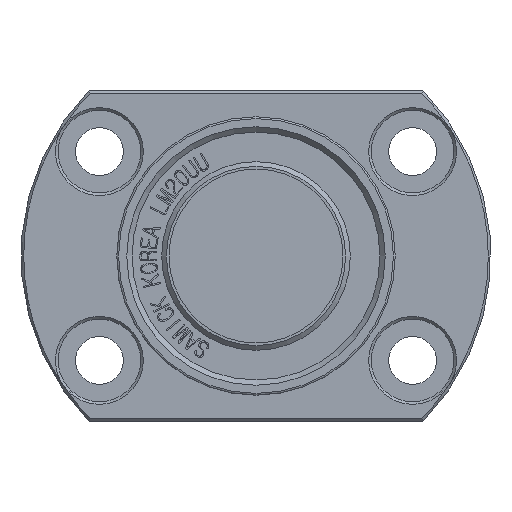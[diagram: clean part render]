
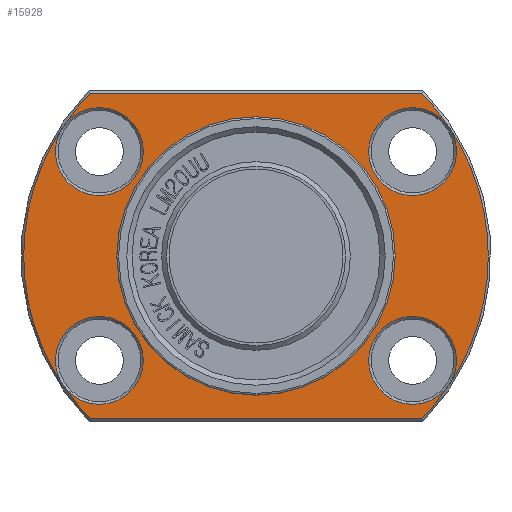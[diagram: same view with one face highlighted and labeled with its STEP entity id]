
A CAD part, front view. The second image highlights one B-rep face of the part: STEP entity #15928.
In plain terms, the highlighted planar face has unit normal (0, -1, 0).
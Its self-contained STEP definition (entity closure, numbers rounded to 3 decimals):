
#2613=FACE_BOUND('',#3773,.T.);
#2614=FACE_BOUND('',#3774,.T.);
#2615=FACE_BOUND('',#3775,.T.);
#2616=FACE_BOUND('',#3776,.T.);
#2617=FACE_BOUND('',#3777,.T.);
#2677=PLANE('',#16811);
#2912=FACE_OUTER_BOUND('',#3772,.T.);
#3772=EDGE_LOOP('',(#11088,#11089,#11090,#11091));
#3773=EDGE_LOOP('',(#11092));
#3774=EDGE_LOOP('',(#11093));
#3775=EDGE_LOOP('',(#11094,#11095));
#3776=EDGE_LOOP('',(#11096));
#3777=EDGE_LOOP('',(#11097));
#4696=LINE('',#19011,#5836);
#4697=LINE('',#19015,#5837);
#5836=VECTOR('',#17170,10.);
#5837=VECTOR('',#17173,10.);
#6975=CIRCLE('',#16808,5.05);
#6978=CIRCLE('',#16812,26.7);
#6979=CIRCLE('',#16813,26.7);
#6980=CIRCLE('',#16814,5.05);
#6981=CIRCLE('',#16815,5.05);
#6982=CIRCLE('',#16816,16.);
#6983=CIRCLE('',#16817,16.);
#6984=CIRCLE('',#16818,5.05);
#7057=VERTEX_POINT('',#19001);
#7060=VERTEX_POINT('',#19009);
#7061=VERTEX_POINT('',#19010);
#7062=VERTEX_POINT('',#19012);
#7063=VERTEX_POINT('',#19014);
#7064=VERTEX_POINT('',#19017);
#7065=VERTEX_POINT('',#19019);
#7066=VERTEX_POINT('',#19021);
#7067=VERTEX_POINT('',#19022);
#7068=VERTEX_POINT('',#19025);
#8669=EDGE_CURVE('',#7057,#7057,#6975,.T.);
#8673=EDGE_CURVE('',#7060,#7061,#4696,.T.);
#8674=EDGE_CURVE('',#7060,#7062,#6978,.T.);
#8675=EDGE_CURVE('',#7063,#7062,#4697,.T.);
#8676=EDGE_CURVE('',#7063,#7061,#6979,.T.);
#8677=EDGE_CURVE('',#7064,#7064,#6980,.T.);
#8678=EDGE_CURVE('',#7065,#7065,#6981,.T.);
#8679=EDGE_CURVE('',#7066,#7067,#6982,.T.);
#8680=EDGE_CURVE('',#7067,#7066,#6983,.T.);
#8681=EDGE_CURVE('',#7068,#7068,#6984,.T.);
#11088=ORIENTED_EDGE('',*,*,#8673,.F.);
#11089=ORIENTED_EDGE('',*,*,#8674,.T.);
#11090=ORIENTED_EDGE('',*,*,#8675,.F.);
#11091=ORIENTED_EDGE('',*,*,#8676,.T.);
#11092=ORIENTED_EDGE('',*,*,#8677,.F.);
#11093=ORIENTED_EDGE('',*,*,#8678,.F.);
#11094=ORIENTED_EDGE('',*,*,#8679,.F.);
#11095=ORIENTED_EDGE('',*,*,#8680,.F.);
#11096=ORIENTED_EDGE('',*,*,#8681,.F.);
#11097=ORIENTED_EDGE('',*,*,#8669,.F.);
#15928=ADVANCED_FACE('',(#2912,#2613,#2614,#2615,#2616,#2617),#2677,.T.);
#16808=AXIS2_PLACEMENT_3D('',#19002,#17161,#17162);
#16811=AXIS2_PLACEMENT_3D('',#19008,#17168,#17169);
#16812=AXIS2_PLACEMENT_3D('',#19013,#17171,#17172);
#16813=AXIS2_PLACEMENT_3D('',#19016,#17174,#17175);
#16814=AXIS2_PLACEMENT_3D('',#19018,#17176,#17177);
#16815=AXIS2_PLACEMENT_3D('',#19020,#17178,#17179);
#16816=AXIS2_PLACEMENT_3D('',#19023,#17180,#17181);
#16817=AXIS2_PLACEMENT_3D('',#19024,#17182,#17183);
#16818=AXIS2_PLACEMENT_3D('',#19026,#17184,#17185);
#17161=DIRECTION('center_axis',(0.,-1.,0.));
#17162=DIRECTION('ref_axis',(-1.,0.,0.));
#17168=DIRECTION('center_axis',(0.,-1.,0.));
#17169=DIRECTION('ref_axis',(0.,0.,-1.));
#17170=DIRECTION('',(-1.,0.,0.));
#17171=DIRECTION('center_axis',(0.,-1.,0.));
#17172=DIRECTION('ref_axis',(1.,0.,0.));
#17173=DIRECTION('',(1.,0.,0.));
#17174=DIRECTION('center_axis',(0.,-1.,0.));
#17175=DIRECTION('ref_axis',(1.,0.,0.));
#17176=DIRECTION('center_axis',(0.,-1.,0.));
#17177=DIRECTION('ref_axis',(-1.,0.,0.));
#17178=DIRECTION('center_axis',(0.,-1.,0.));
#17179=DIRECTION('ref_axis',(-1.,0.,0.));
#17180=DIRECTION('center_axis',(0.,-1.,0.));
#17181=DIRECTION('ref_axis',(1.,0.,0.));
#17182=DIRECTION('center_axis',(0.,-1.,0.));
#17183=DIRECTION('ref_axis',(1.,0.,0.));
#17184=DIRECTION('center_axis',(0.,-1.,0.));
#17185=DIRECTION('ref_axis',(-1.,0.,0.));
#19001=CARTESIAN_POINT('',(23.05,-40.,-12.));
#19002=CARTESIAN_POINT('Origin',(18.,-40.,-12.));
#19008=CARTESIAN_POINT('Origin',(21.35,-40.,0.));
#19009=CARTESIAN_POINT('',(19.058,-40.,-18.7));
#19010=CARTESIAN_POINT('',(-19.058,-40.,-18.7));
#19011=CARTESIAN_POINT('',(25.175,-40.,-18.7));
#19012=CARTESIAN_POINT('',(19.058,-40.,18.7));
#19013=CARTESIAN_POINT('Origin',(0.,-40.,0.));
#19014=CARTESIAN_POINT('',(-19.058,-40.,18.7));
#19015=CARTESIAN_POINT('',(-3.825,-40.,18.7));
#19016=CARTESIAN_POINT('Origin',(0.,-40.,0.));
#19017=CARTESIAN_POINT('',(-12.95,-40.,-12.));
#19018=CARTESIAN_POINT('Origin',(-18.,-40.,-12.));
#19019=CARTESIAN_POINT('',(23.05,-40.,12.));
#19020=CARTESIAN_POINT('Origin',(18.,-40.,12.));
#19021=CARTESIAN_POINT('',(16.,-40.,0.));
#19022=CARTESIAN_POINT('',(-16.,-40.,0.));
#19023=CARTESIAN_POINT('Origin',(0.,-40.,0.));
#19024=CARTESIAN_POINT('Origin',(0.,-40.,0.));
#19025=CARTESIAN_POINT('',(-12.95,-40.,12.));
#19026=CARTESIAN_POINT('Origin',(-18.,-40.,12.));
